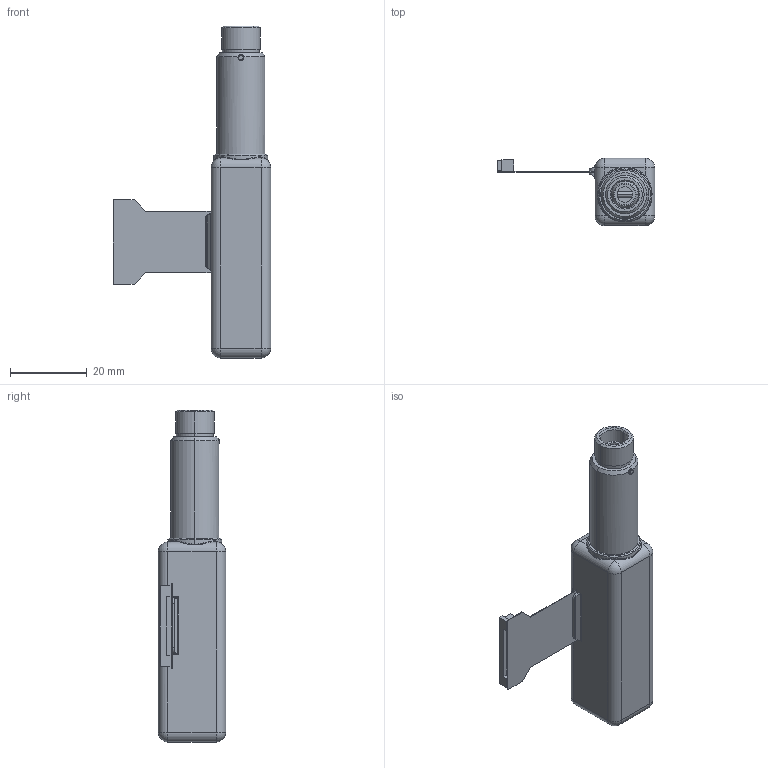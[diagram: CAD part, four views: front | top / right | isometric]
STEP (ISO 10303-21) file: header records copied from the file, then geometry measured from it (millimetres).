
FILE_DESCRIPTION (( 'STEP AP214' ), '1' );
FILE_NAME ('LA12_S030-HOME.STEP', '2026-08-10T05:11:03', ( '' ), ( '' ), 'SwSTEP 2.0', 'SolidWorks 2019', '' );
FILE_SCHEMA (( 'AUTOMOTIVE_DESIGN' ));
Length unit declared in the file: millimetre
Products named in the file (5): LA12_body+housing; LA12_leadscrew-nut; LA12_S030-HOME
Assembly tree (2 placements, depth 2):
  LA12_leadscrew-nut
  LA12_S030-HOME
    LA12_body+housing
    LA12_leadscrew-nut
  LA12_body+housing
Bounding box: 40.9 x 17.5 x 86.29 mm (x, y, z)
Volume: 17847.3 mm3; surface area: 7871.6 mm2
Topology: 4 solids, 4 shells, 156 faces, 378 edges, 225 vertices
Faces by surface type: plane 63, cylinder 54, cone 16, bspline 11, sphere 8, torus 4
Entity records: 8874 total; most frequent: CARTESIAN_POINT 3860, ORIENTED_EDGE 740, DIRECTION 732, EDGE_CURVE 370, AXIS2_PLACEMENT_3D 271, VERTEX_POINT 225, LINE 190, VECTOR 190
